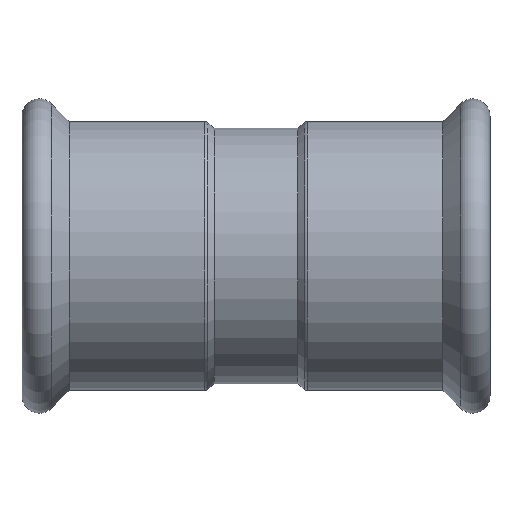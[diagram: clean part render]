
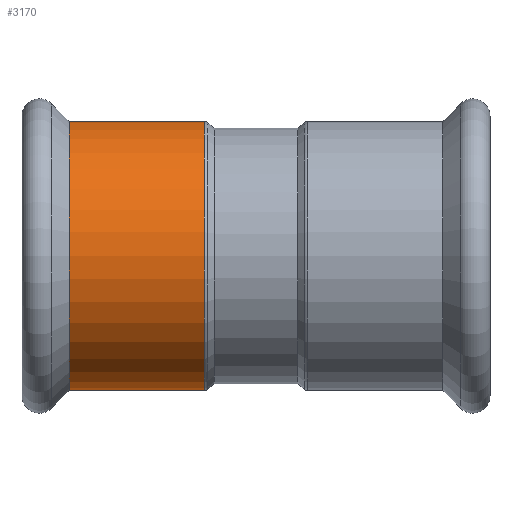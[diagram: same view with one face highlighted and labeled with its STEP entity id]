
A CAD part, top view. The second image highlights one B-rep face of the part: STEP entity #3170.
In plain terms, the highlighted cylindrical face has radius 46.85 mm (diameter 93.7 mm), a partial arc.
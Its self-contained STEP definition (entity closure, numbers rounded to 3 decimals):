
#1780=CARTESIAN_POINT('',(57.615,-46.85,0.));
#1790=VERTEX_POINT('',#1780);
#1970=CARTESIAN_POINT('',(57.615,46.85,0.))
;
#1980=VERTEX_POINT('',#1970);
#2010=CARTESIAN_POINT('',(57.615,0.,0.));
#2020=DIRECTION('',(1.,0.,0.));
#2030=DIRECTION('',(0.,1.,0.));
#2040=AXIS2_PLACEMENT_3D('',#2010,#2020,#2030);
#2050=CIRCLE('',#2040,46.85);
#2850=CARTESIAN_POINT('',(45.44,0.,0.));
#2860=DIRECTION('',(-1.,0.,0.));
#2870=DIRECTION('',(0.,1.,0.));
#2880=AXIS2_PLACEMENT_3D('',#2850,#2860,#2870);
#2890=CYLINDRICAL_SURFACE('',#2880,46.85);
#2900=CARTESIAN_POINT('',(45.44,46.85,0.));
#2910=DIRECTION('',(-1.,0.,0.));
#2920=VECTOR('',#2910,1.);
#2930=LINE('',#2900,#2920);
#2940=CARTESIAN_POINT('',(10.588,46.85,0.));
#2950=VERTEX_POINT('',#2940);
#2960=EDGE_CURVE('',#1980,#2950,#2930,.T.);
#2970=ORIENTED_EDGE('',*,*,#2960,.T.);
#2980=EDGE_CURVE('',#1980,#1790,#2050,.T.);
#2990=ORIENTED_EDGE('',*,*,#2980,.F.);
#3000=CARTESIAN_POINT('',(45.44,-46.85,0.)
);
#3010=DIRECTION('',(-1.,0.,0.));
#3020=VECTOR('',#3010,1.);
#3030=LINE('',#3000,#3020);
#3040=CARTESIAN_POINT('',(10.588,-46.85,0.));
#3050=VERTEX_POINT('',#3040);
#3060=EDGE_CURVE('',#1790,#3050,#3030,.T.);
#3070=ORIENTED_EDGE('',*,*,#3060,.F.);
#3080=CARTESIAN_POINT('',(10.588,0.,0.));
#3090=DIRECTION('',(-1.,0.,0.));
#3100=DIRECTION('',(0.,1.,0.));
#3110=AXIS2_PLACEMENT_3D('',#3080,#3090,#3100);
#3120=CIRCLE('',#3110,46.85);
#3130=EDGE_CURVE('',#3050,#2950,#3120,.T.);
#3140=ORIENTED_EDGE('',*,*,#3130,.F.);
#3150=EDGE_LOOP('',(#3140,#3070,#2990,#2970));
#3160=FACE_OUTER_BOUND('',#3150,.T.);
#3170=ADVANCED_FACE('',(#3160),#2890,.T.);
